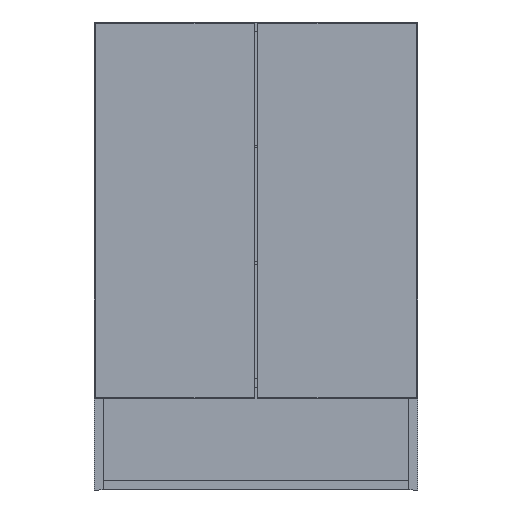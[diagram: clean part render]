
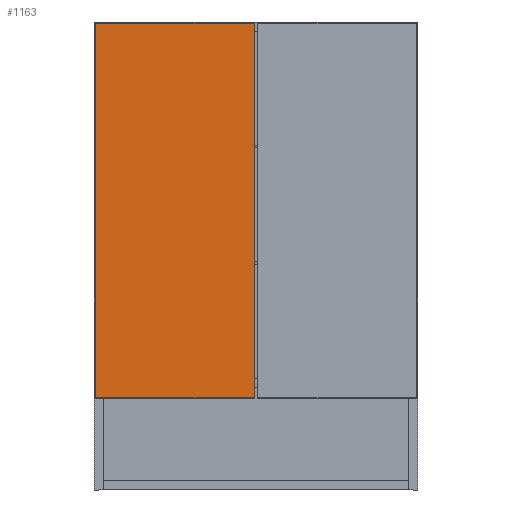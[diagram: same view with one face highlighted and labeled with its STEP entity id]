
A CAD part, front view. The second image highlights one B-rep face of the part: STEP entity #1163.
In plain terms, the highlighted planar face has unit normal (0, -1, 0).
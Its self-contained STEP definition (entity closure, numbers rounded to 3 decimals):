
#24=FACE_OUTER_BOUND('',#86,.T.);
#86=EDGE_LOOP('',(#736,#737,#738,#739));
#150=LINE('',#1595,#306);
#153=LINE('',#1601,#309);
#156=LINE('',#1607,#312);
#159=LINE('',#1611,#315);
#306=VECTOR('',#1311,10.);
#309=VECTOR('',#1316,10.);
#312=VECTOR('',#1321,10.);
#315=VECTOR('',#1326,10.);
#462=VERTEX_POINT('',#1592);
#463=VERTEX_POINT('',#1594);
#465=VERTEX_POINT('',#1600);
#467=VERTEX_POINT('',#1606);
#566=EDGE_CURVE('',#463,#462,#150,.T.);
#569=EDGE_CURVE('',#465,#463,#153,.T.);
#572=EDGE_CURVE('',#467,#465,#156,.T.);
#575=EDGE_CURVE('',#462,#467,#159,.T.);
#736=ORIENTED_EDGE('',*,*,#575,.T.);
#737=ORIENTED_EDGE('',*,*,#572,.T.);
#738=ORIENTED_EDGE('',*,*,#569,.T.);
#739=ORIENTED_EDGE('',*,*,#566,.T.);
#1036=PLANE('',#1247);
#1163=ADVANCED_FACE('',(#24),#1036,.T.);
#1247=AXIS2_PLACEMENT_3D('',#1612,#1327,#1328);
#1311=DIRECTION('',(0.,0.,1.));
#1316=DIRECTION('',(1.,0.,0.));
#1321=DIRECTION('',(0.,0.,-1.));
#1326=DIRECTION('',(-1.,0.,0.));
#1327=DIRECTION('center_axis',(0.,-1.,0.));
#1328=DIRECTION('ref_axis',(0.,0.,-1.));
#1592=CARTESIAN_POINT('',(-3.,-175.,849.));
#1594=CARTESIAN_POINT('',(-3.,-175.,168.));
#1595=CARTESIAN_POINT('',(-3.,-175.,849.));
#1600=CARTESIAN_POINT('',(-292.,-175.,168.));
#1601=CARTESIAN_POINT('',(-3.,-175.,168.));
#1606=CARTESIAN_POINT('',(-292.,-175.,849.));
#1607=CARTESIAN_POINT('',(-292.,-175.,168.));
#1611=CARTESIAN_POINT('',(-292.,-175.,849.));
#1612=CARTESIAN_POINT('Origin',(-147.5,-175.,508.5));
